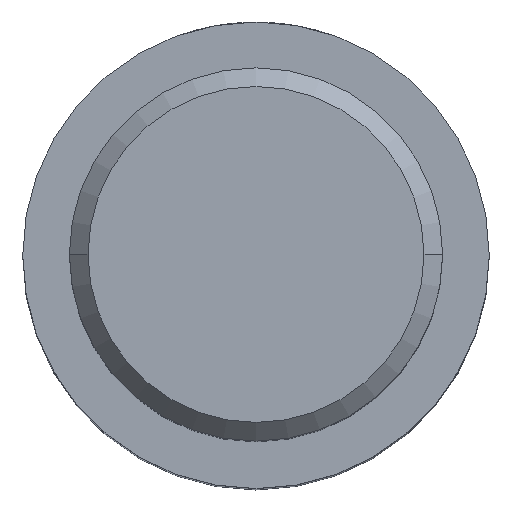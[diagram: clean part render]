
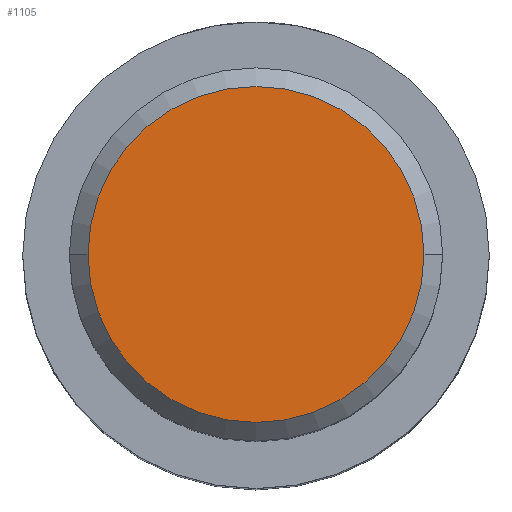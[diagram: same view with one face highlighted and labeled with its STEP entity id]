
A CAD part, top view. The second image highlights one B-rep face of the part: STEP entity #1105.
In plain terms, the highlighted planar face has unit normal (0, 0, 1).
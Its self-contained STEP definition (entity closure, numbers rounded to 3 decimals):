
#22 = ORIENTED_EDGE ( 'NONE', *, *, #969, .T. ) ;
#23 = ORIENTED_EDGE ( 'NONE', *, *, #245, .T. ) ;
#52 = CARTESIAN_POINT ( 'NONE',  ( 0., 0., 47.5 ) ) ;
#53 = DIRECTION ( 'NONE',  ( 0., 0., 1. ) ) ;
#54 = DIRECTION ( 'NONE',  ( 1., 0., 0. ) ) ;
#78 = CARTESIAN_POINT ( 'NONE',  ( 0., 0., 47.5 ) ) ;
#80 = PLANE ( 'NONE',  #606 ) ;
#83 = DIRECTION ( 'NONE',  ( 0., 0., 1. ) ) ;
#84 = DIRECTION ( 'NONE',  ( 1., 0., 0. ) ) ;
#245 = EDGE_CURVE ( 'NONE', #558, #559, #1178, .T. ) ;
#397 = CARTESIAN_POINT ( 'NONE',  ( 0., 0., 47.5 ) ) ;
#398 = DIRECTION ( 'NONE',  ( 0., 0., 1. ) ) ;
#399 = DIRECTION ( 'NONE',  ( 1., 0., 0. ) ) ;
#558 = VERTEX_POINT ( 'NONE', #1047 ) ;
#559 = VERTEX_POINT ( 'NONE', #1054 ) ;
#598 = AXIS2_PLACEMENT_3D ( 'NONE', #52, #53, #54 ) ;
#606 = AXIS2_PLACEMENT_3D ( 'NONE', #78, #83, #84 ) ;
#649 = FACE_OUTER_BOUND ( 'NONE', #1174, .T. ) ;
#653 = CIRCLE ( 'NONE', #598, 9. ) ;
#969 = EDGE_CURVE ( 'NONE', #559, #558, #653, .T. ) ;
#973 = AXIS2_PLACEMENT_3D ( 'NONE', #397, #398, #399 ) ;
#1047 = CARTESIAN_POINT ( 'NONE',  ( 9., 0., 47.5 ) ) ;
#1054 = CARTESIAN_POINT ( 'NONE',  ( -9., 0., 47.5 ) ) ;
#1105 = ADVANCED_FACE ( 'NONE', ( #649 ), #80, .T. ) ;
#1174 = EDGE_LOOP ( 'NONE', ( #22, #23 ) ) ;
#1178 = CIRCLE ( 'NONE', #973, 9. ) ;
